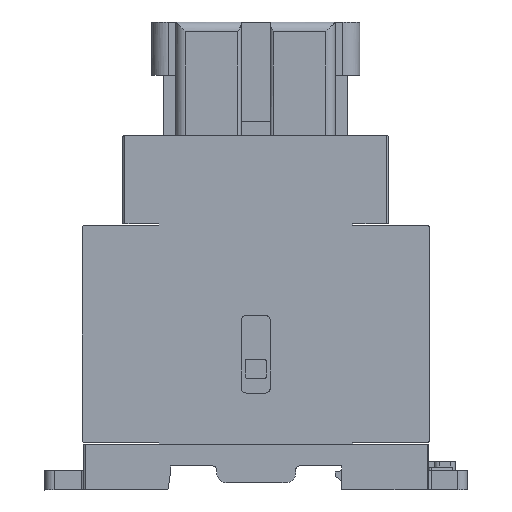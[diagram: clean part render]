
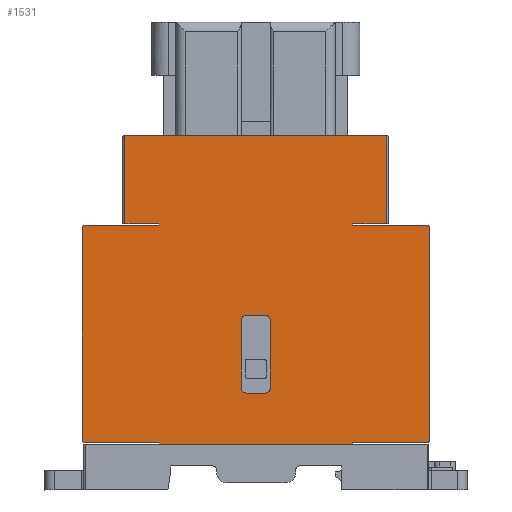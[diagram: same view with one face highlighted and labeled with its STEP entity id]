
A CAD part, left-side view. The second image highlights one B-rep face of the part: STEP entity #1531.
In plain terms, the highlighted planar face has unit normal (-1, 0, 0).
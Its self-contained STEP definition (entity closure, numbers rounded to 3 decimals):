
#637=FACE_BOUND('',#3471,.T.);
#638=FACE_BOUND('',#3472,.T.);
#1102=CIRCLE('',#14457,0.5);
#1103=CIRCLE('',#14458,0.5);
#1104=CIRCLE('',#14459,0.5);
#1105=CIRCLE('',#14460,0.5);
#1106=CIRCLE('',#14461,1.);
#1107=CIRCLE('',#14462,1.);
#1108=CIRCLE('',#14463,1.);
#1109=CIRCLE('',#14464,1.);
#1531=ADVANCED_FACE('',(#637,#638),#2191,.T.);
#2191=PLANE('',#14465);
#3471=EDGE_LOOP('',(#5098,#5099,#5100,#5101,#5102,#5103,#5104,#5105,#5106,
#5107,#5108,#5109,#5110,#5111,#5112,#5113,#5114,#5115,#5116,#5117));
#3472=EDGE_LOOP('',(#5118,#5119,#5120,#5121,#5122,#5123,#5124,#5125));
#5098=ORIENTED_EDGE('',*,*,#9759,.F.);
#5099=ORIENTED_EDGE('',*,*,#9760,.T.);
#5100=ORIENTED_EDGE('',*,*,#9761,.T.);
#5101=ORIENTED_EDGE('',*,*,#9762,.T.);
#5102=ORIENTED_EDGE('',*,*,#9763,.T.);
#5103=ORIENTED_EDGE('',*,*,#9764,.T.);
#5104=ORIENTED_EDGE('',*,*,#9765,.T.);
#5105=ORIENTED_EDGE('',*,*,#9766,.T.);
#5106=ORIENTED_EDGE('',*,*,#9767,.T.);
#5107=ORIENTED_EDGE('',*,*,#9768,.T.);
#5108=ORIENTED_EDGE('',*,*,#9769,.T.);
#5109=ORIENTED_EDGE('',*,*,#9770,.T.);
#5110=ORIENTED_EDGE('',*,*,#9771,.T.);
#5111=ORIENTED_EDGE('',*,*,#9772,.T.);
#5112=ORIENTED_EDGE('',*,*,#9773,.T.);
#5113=ORIENTED_EDGE('',*,*,#9774,.T.);
#5114=ORIENTED_EDGE('',*,*,#9775,.T.);
#5115=ORIENTED_EDGE('',*,*,#9776,.T.);
#5116=ORIENTED_EDGE('',*,*,#9777,.T.);
#5117=ORIENTED_EDGE('',*,*,#9778,.T.);
#5118=ORIENTED_EDGE('',*,*,#9779,.T.);
#5119=ORIENTED_EDGE('',*,*,#9780,.T.);
#5120=ORIENTED_EDGE('',*,*,#9781,.T.);
#5121=ORIENTED_EDGE('',*,*,#9782,.T.);
#5122=ORIENTED_EDGE('',*,*,#9783,.T.);
#5123=ORIENTED_EDGE('',*,*,#9784,.T.);
#5124=ORIENTED_EDGE('',*,*,#9785,.T.);
#5125=ORIENTED_EDGE('',*,*,#9786,.T.);
#8312=VERTEX_POINT('',#20167);
#8313=VERTEX_POINT('',#20168);
#8314=VERTEX_POINT('',#20170);
#8315=VERTEX_POINT('',#20172);
#8316=VERTEX_POINT('',#20174);
#8317=VERTEX_POINT('',#20176);
#8318=VERTEX_POINT('',#20178);
#8319=VERTEX_POINT('',#20180);
#8320=VERTEX_POINT('',#20182);
#8321=VERTEX_POINT('',#20184);
#8322=VERTEX_POINT('',#20186);
#8323=VERTEX_POINT('',#20188);
#8324=VERTEX_POINT('',#20190);
#8325=VERTEX_POINT('',#20192);
#8326=VERTEX_POINT('',#20194);
#8327=VERTEX_POINT('',#20196);
#8328=VERTEX_POINT('',#20198);
#8329=VERTEX_POINT('',#20200);
#8330=VERTEX_POINT('',#20202);
#8331=VERTEX_POINT('',#20204);
#8332=VERTEX_POINT('',#20207);
#8333=VERTEX_POINT('',#20208);
#8334=VERTEX_POINT('',#20210);
#8335=VERTEX_POINT('',#20212);
#8336=VERTEX_POINT('',#20214);
#8337=VERTEX_POINT('',#20216);
#8338=VERTEX_POINT('',#20218);
#8339=VERTEX_POINT('',#20220);
#9759=EDGE_CURVE('',#8312,#8313,#11546,.T.);
#9760=EDGE_CURVE('',#8312,#8314,#11547,.T.);
#9761=EDGE_CURVE('',#8314,#8315,#11548,.T.);
#9762=EDGE_CURVE('',#8315,#8316,#11549,.T.);
#9763=EDGE_CURVE('',#8316,#8317,#1102,.T.);
#9764=EDGE_CURVE('',#8317,#8318,#11550,.T.);
#9765=EDGE_CURVE('',#8318,#8319,#1103,.T.);
#9766=EDGE_CURVE('',#8319,#8320,#11551,.T.);
#9767=EDGE_CURVE('',#8320,#8321,#11552,.T.);
#9768=EDGE_CURVE('',#8321,#8322,#11553,.T.);
#9769=EDGE_CURVE('',#8322,#8323,#11554,.T.);
#9770=EDGE_CURVE('',#8323,#8324,#11555,.T.);
#9771=EDGE_CURVE('',#8324,#8325,#1104,.T.);
#9772=EDGE_CURVE('',#8325,#8326,#11556,.T.);
#9773=EDGE_CURVE('',#8326,#8327,#1105,.T.);
#9774=EDGE_CURVE('',#8327,#8328,#11557,.T.);
#9775=EDGE_CURVE('',#8328,#8329,#11558,.T.);
#9776=EDGE_CURVE('',#8329,#8330,#11559,.T.);
#9777=EDGE_CURVE('',#8330,#8331,#11560,.T.);
#9778=EDGE_CURVE('',#8331,#8313,#11561,.T.);
#9779=EDGE_CURVE('',#8332,#8333,#11562,.T.);
#9780=EDGE_CURVE('',#8333,#8334,#1106,.T.);
#9781=EDGE_CURVE('',#8334,#8335,#11563,.T.);
#9782=EDGE_CURVE('',#8335,#8336,#1107,.T.);
#9783=EDGE_CURVE('',#8336,#8337,#11564,.T.);
#9784=EDGE_CURVE('',#8337,#8338,#1108,.T.);
#9785=EDGE_CURVE('',#8338,#8339,#11565,.T.);
#9786=EDGE_CURVE('',#8339,#8332,#1109,.T.);
#11546=LINE('',#20166,#13008);
#11547=LINE('',#20169,#13009);
#11548=LINE('',#20171,#13010);
#11549=LINE('',#20173,#13011);
#11550=LINE('',#20177,#13012);
#11551=LINE('',#20181,#13013);
#11552=LINE('',#20183,#13014);
#11553=LINE('',#20185,#13015);
#11554=LINE('',#20187,#13016);
#11555=LINE('',#20189,#13017);
#11556=LINE('',#20193,#13018);
#11557=LINE('',#20197,#13019);
#11558=LINE('',#20199,#13020);
#11559=LINE('',#20201,#13021);
#11560=LINE('',#20203,#13022);
#11561=LINE('',#20205,#13023);
#11562=LINE('',#20206,#13024);
#11563=LINE('',#20211,#13025);
#11564=LINE('',#20215,#13026);
#11565=LINE('',#20219,#13027);
#13008=VECTOR('',#16302,1.);
#13009=VECTOR('',#16303,1.);
#13010=VECTOR('',#16304,1.);
#13011=VECTOR('',#16305,1.);
#13012=VECTOR('',#16308,1.);
#13013=VECTOR('',#16311,1.);
#13014=VECTOR('',#16312,1.);
#13015=VECTOR('',#16313,1.);
#13016=VECTOR('',#16314,1.);
#13017=VECTOR('',#16315,1.);
#13018=VECTOR('',#16318,1.);
#13019=VECTOR('',#16321,1.);
#13020=VECTOR('',#16322,1.);
#13021=VECTOR('',#16323,1.);
#13022=VECTOR('',#16324,1.);
#13023=VECTOR('',#16325,1.);
#13024=VECTOR('',#16326,1.);
#13025=VECTOR('',#16329,1.);
#13026=VECTOR('',#16332,1.);
#13027=VECTOR('',#16335,1.);
#14457=AXIS2_PLACEMENT_3D('',#20175,#16306,#16307);
#14458=AXIS2_PLACEMENT_3D('',#20179,#16309,#16310);
#14459=AXIS2_PLACEMENT_3D('',#20191,#16316,#16317);
#14460=AXIS2_PLACEMENT_3D('',#20195,#16319,#16320);
#14461=AXIS2_PLACEMENT_3D('',#20209,#16327,#16328);
#14462=AXIS2_PLACEMENT_3D('',#20213,#16330,#16331);
#14463=AXIS2_PLACEMENT_3D('',#20217,#16333,#16334);
#14464=AXIS2_PLACEMENT_3D('',#20221,#16336,#16337);
#14465=AXIS2_PLACEMENT_3D('',#20222,#16338,#16339);
#16302=DIRECTION('',(0.,0.,1.));
#16303=DIRECTION('',(0.,-1.,0.));
#16304=DIRECTION('',(0.,0.,-1.));
#16305=DIRECTION('',(0.,1.,0.));
#16306=DIRECTION('',(-1.,0.,0.));
#16307=DIRECTION('',(0.,0.,1.));
#16308=DIRECTION('',(0.,0.,-1.));
#16309=DIRECTION('',(-1.,0.,0.));
#16310=DIRECTION('',(0.,0.,1.));
#16311=DIRECTION('',(0.,-1.,0.));
#16312=DIRECTION('',(0.,0.,-1.));
#16313=DIRECTION('',(0.,-1.,0.));
#16314=DIRECTION('',(0.,0.,1.));
#16315=DIRECTION('',(0.,-1.,0.));
#16316=DIRECTION('',(-1.,0.,0.));
#16317=DIRECTION('',(0.,0.,1.));
#16318=DIRECTION('',(0.,0.,1.));
#16319=DIRECTION('',(-1.,0.,0.));
#16320=DIRECTION('',(0.,0.,1.));
#16321=DIRECTION('',(0.,1.,0.));
#16322=DIRECTION('',(0.,0.,1.));
#16323=DIRECTION('',(0.,-1.,0.));
#16324=DIRECTION('',(0.,0.,1.));
#16325=DIRECTION('',(0.,1.,0.));
#16326=DIRECTION('',(0.,-1.,0.));
#16327=DIRECTION('',(1.,0.,0.));
#16328=DIRECTION('',(0.,0.,1.));
#16329=DIRECTION('',(0.,0.,-1.));
#16330=DIRECTION('',(1.,0.,0.));
#16331=DIRECTION('',(0.,0.,1.));
#16332=DIRECTION('',(0.,1.,0.));
#16333=DIRECTION('',(1.,0.,0.));
#16334=DIRECTION('',(0.,0.,1.));
#16335=DIRECTION('',(0.,0.,1.));
#16336=DIRECTION('',(1.,0.,0.));
#16337=DIRECTION('',(0.,0.,1.));
#16338=DIRECTION('',(-1.,0.,0.));
#16339=DIRECTION('',(0.,0.,1.));
#20166=CARTESIAN_POINT('',(-27.,27.05,-223.245));
#20167=CARTESIAN_POINT('',(-27.,27.05,-22.25));
#20168=CARTESIAN_POINT('',(-27.,27.05,-4.));
#20169=CARTESIAN_POINT('',(-27.,27.5,-22.25));
#20170=CARTESIAN_POINT('',(-27.,20.029,-22.25));
#20171=CARTESIAN_POINT('',(-27.,20.029,-22.25));
#20172=CARTESIAN_POINT('',(-27.,20.029,-22.55));
#20173=CARTESIAN_POINT('',(-27.,20.029,-22.55));
#20174=CARTESIAN_POINT('',(-27.,35.379,-22.55));
#20175=CARTESIAN_POINT('',(-27.,35.379,-23.05));
#20176=CARTESIAN_POINT('',(-27.,35.879,-23.05));
#20177=CARTESIAN_POINT('',(-27.,35.879,-23.05));
#20178=CARTESIAN_POINT('',(-27.,35.879,-66.95));
#20179=CARTESIAN_POINT('',(-27.,35.379,-66.95));
#20180=CARTESIAN_POINT('',(-27.,35.379,-67.45));
#20181=CARTESIAN_POINT('',(-27.,35.379,-67.45));
#20182=CARTESIAN_POINT('',(-27.,20.029,-67.45));
#20183=CARTESIAN_POINT('',(-27.,20.029,-67.45));
#20184=CARTESIAN_POINT('',(-27.,20.029,-67.75));
#20185=CARTESIAN_POINT('',(-27.,20.029,-67.75));
#20186=CARTESIAN_POINT('',(-27.,-20.029,-67.75));
#20187=CARTESIAN_POINT('',(-27.,-20.029,-67.75));
#20188=CARTESIAN_POINT('',(-27.,-20.029,-67.45));
#20189=CARTESIAN_POINT('',(-27.,-20.029,-67.45));
#20190=CARTESIAN_POINT('',(-27.,-35.379,-67.45));
#20191=CARTESIAN_POINT('',(-27.,-35.379,-66.95));
#20192=CARTESIAN_POINT('',(-27.,-35.879,-66.95));
#20193=CARTESIAN_POINT('',(-27.,-35.879,-66.95));
#20194=CARTESIAN_POINT('',(-27.,-35.879,-23.05));
#20195=CARTESIAN_POINT('',(-27.,-35.379,-23.05));
#20196=CARTESIAN_POINT('',(-27.,-35.379,-22.55));
#20197=CARTESIAN_POINT('',(-27.,-35.379,-22.55));
#20198=CARTESIAN_POINT('',(-27.,-20.029,-22.55));
#20199=CARTESIAN_POINT('',(-27.,-20.029,-22.55));
#20200=CARTESIAN_POINT('',(-27.,-20.029,-22.25));
#20201=CARTESIAN_POINT('',(-27.,-20.029,-22.25));
#20202=CARTESIAN_POINT('',(-27.,-27.05,-22.25));
#20203=CARTESIAN_POINT('',(-27.,-27.05,-223.245));
#20204=CARTESIAN_POINT('',(-27.,-27.05,-4.));
#20205=CARTESIAN_POINT('',(-27.,-27.05,-4.));
#20206=CARTESIAN_POINT('',(-27.,-2.,-41.195));
#20207=CARTESIAN_POINT('',(-27.,2.,-41.195));
#20208=CARTESIAN_POINT('',(-27.,-2.,-41.195));
#20209=CARTESIAN_POINT('',(-27.,-2.,-42.195));
#20210=CARTESIAN_POINT('',(-27.,-3.,-42.195));
#20211=CARTESIAN_POINT('',(-27.,-3.,-56.205));
#20212=CARTESIAN_POINT('',(-27.,-3.,-56.205));
#20213=CARTESIAN_POINT('',(-27.,-2.,-56.205));
#20214=CARTESIAN_POINT('',(-27.,-2.,-57.205));
#20215=CARTESIAN_POINT('',(-27.,2.,-57.205));
#20216=CARTESIAN_POINT('',(-27.,2.,-57.205));
#20217=CARTESIAN_POINT('',(-27.,2.,-56.205));
#20218=CARTESIAN_POINT('',(-27.,3.,-56.205));
#20219=CARTESIAN_POINT('',(-27.,3.,-42.195));
#20220=CARTESIAN_POINT('',(-27.,3.,-42.195));
#20221=CARTESIAN_POINT('',(-27.,2.,-42.195));
#20222=CARTESIAN_POINT('',(-27.,-35.379,-66.95));
